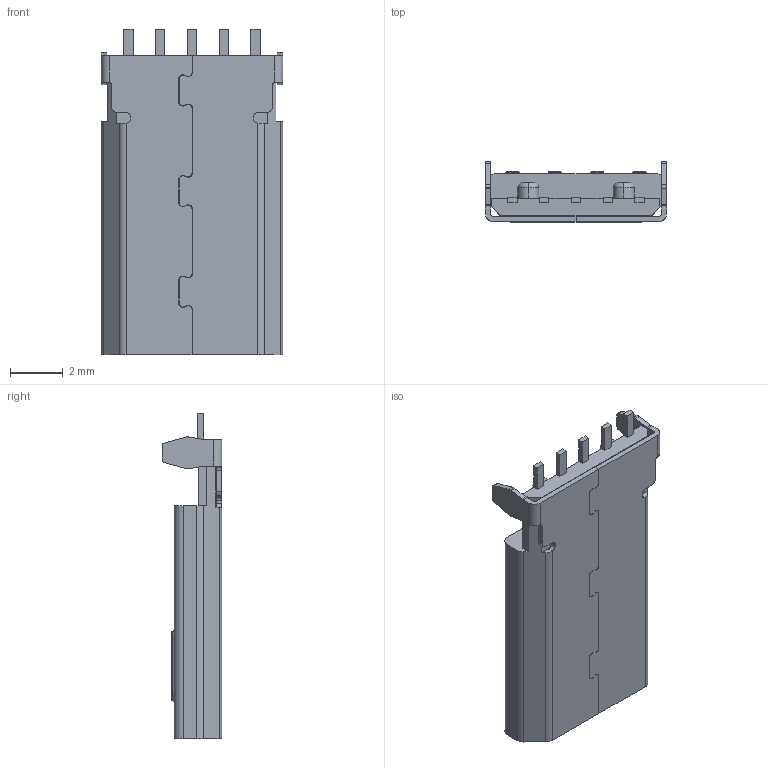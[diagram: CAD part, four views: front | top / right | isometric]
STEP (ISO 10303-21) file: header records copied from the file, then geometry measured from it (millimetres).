
FILE_DESCRIPTION((''),'2;1');
FILE_NAME('1030511AP005_AR005_MICRO_USB_5P','2023-01-07T',('Administrator'),(''),'PRO/ENGINEER BY PARAMETRIC TECHNOLOGY CORPORATION, 2009440','PRO/ENGINEER BY PARAMETRIC TECHNOLOGY CORPORATION, 2009440','');
FILE_SCHEMA(('CONFIG_CONTROL_DESIGN'));
Length unit declared in the file: millimetre
Products named in the file (1): 1030511AP005_AR005_MICRO_USB_5P
Bounding box: 6.85 x 2.25 x 12.3 mm (x, y, z)
Volume: 101.8 mm3; surface area: 365.3 mm2
Topology: 1 solids, 1 shells, 328 faces, 927 edges, 615 vertices
Faces by surface type: plane 204, cylinder 104, torus 16, bspline 4
Entity records: 10790 total; most frequent: CARTESIAN_POINT 1996, ORIENTED_EDGE 1854, DIRECTION 1842, EDGE_CURVE 927, VECTOR 652, LINE 652, VERTEX_POINT 615, AXIS2_PLACEMENT_3D 595
